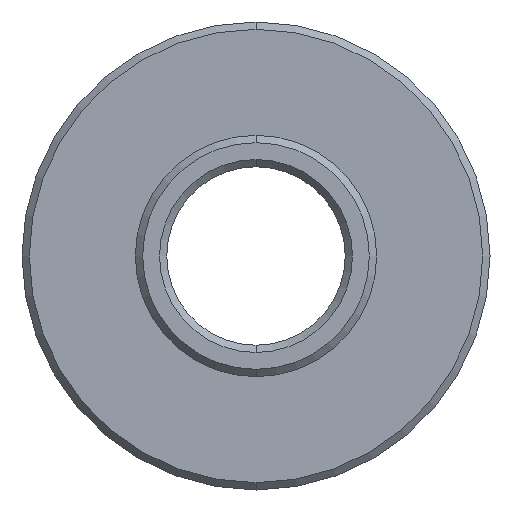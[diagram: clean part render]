
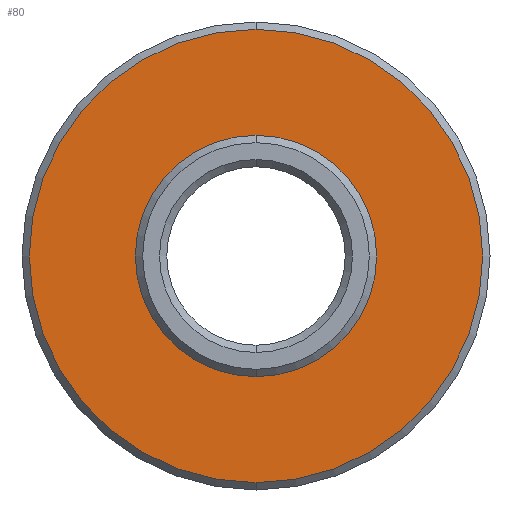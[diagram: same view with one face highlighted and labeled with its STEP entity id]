
A CAD part, front view. The second image highlights one B-rep face of the part: STEP entity #80.
In plain terms, the highlighted planar face has unit normal (0, -1, 0).
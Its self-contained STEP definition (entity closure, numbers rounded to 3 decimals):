
#21 = CARTESIAN_POINT ( 'NONE',  ( 0., -6., 15.5 ) ) ;
#22 = DIRECTION ( 'NONE',  ( 0., 0., 1. ) ) ;
#25 = VERTEX_POINT ( 'NONE', #455 ) ;
#27 = VERTEX_POINT ( 'NONE', #265 ) ;
#28 = CIRCLE ( 'NONE', #495, 15.5 ) ;
#29 = DIRECTION ( 'NONE',  ( 0., -1., 0. ) ) ;
#51 = DIRECTION ( 'NONE',  ( 0., -1., 0. ) ) ;
#62 = ORIENTED_EDGE ( 'NONE', *, *, #449, .T. ) ;
#63 = CIRCLE ( 'NONE', #513, 15.5 ) ;
#80 = ADVANCED_FACE ( 'NONE', ( #323, #401 ), #487, .T. ) ;
#95 = CARTESIAN_POINT ( 'NONE',  ( 0., -6., 0. ) ) ;
#108 = VERTEX_POINT ( 'NONE', #199 ) ;
#117 = DIRECTION ( 'NONE',  ( 0., 0., -1. ) ) ;
#126 = ORIENTED_EDGE ( 'NONE', *, *, #409, .T. ) ;
#136 = DIRECTION ( 'NONE',  ( 0., 0., -1. ) ) ;
#187 = DIRECTION ( 'NONE',  ( 0., 0., 1. ) ) ;
#191 = DIRECTION ( 'NONE',  ( 0., -1., 0. ) ) ;
#199 = CARTESIAN_POINT ( 'NONE',  ( 0., -6., -8.25 ) ) ;
#215 = AXIS2_PLACEMENT_3D ( 'NONE', #230, #515, #187 ) ;
#230 = CARTESIAN_POINT ( 'NONE',  ( 0., -6., 0. ) ) ;
#260 = CIRCLE ( 'NONE', #358, 8.25 ) ;
#265 = CARTESIAN_POINT ( 'NONE',  ( 0., -6., -15.5 ) ) ;
#310 = ORIENTED_EDGE ( 'NONE', *, *, #507, .T. ) ;
#323 = FACE_OUTER_BOUND ( 'NONE', #362, .T. ) ;
#345 = CARTESIAN_POINT ( 'NONE',  ( 0., -6., 0. ) ) ;
#358 = AXIS2_PLACEMENT_3D ( 'NONE', #471, #438, #22 ) ;
#362 = EDGE_LOOP ( 'NONE', ( #62, #126 ) ) ;
#396 = ORIENTED_EDGE ( 'NONE', *, *, #477, .T. ) ;
#397 = CARTESIAN_POINT ( 'NONE',  ( -16., -6., 0. ) ) ;
#401 = FACE_BOUND ( 'NONE', #542, .T. ) ;
#409 = EDGE_CURVE ( 'NONE', #27, #448, #63, .T. ) ;
#438 = DIRECTION ( 'NONE',  ( 0., 1., 0. ) ) ;
#448 = VERTEX_POINT ( 'NONE', #21 ) ;
#449 = EDGE_CURVE ( 'NONE', #448, #27, #28, .T. ) ;
#455 = CARTESIAN_POINT ( 'NONE',  ( 0., -6., 8.25 ) ) ;
#461 = AXIS2_PLACEMENT_3D ( 'NONE', #397, #29, #117 ) ;
#471 = CARTESIAN_POINT ( 'NONE',  ( 0., -6., 0. ) ) ;
#476 = CIRCLE ( 'NONE', #215, 8.25 ) ;
#477 = EDGE_CURVE ( 'NONE', #108, #25, #260, .T. ) ;
#487 = PLANE ( 'NONE',  #461 ) ;
#495 = AXIS2_PLACEMENT_3D ( 'NONE', #95, #191, #520 ) ;
#507 = EDGE_CURVE ( 'NONE', #25, #108, #476, .T. ) ;
#513 = AXIS2_PLACEMENT_3D ( 'NONE', #345, #51, #136 ) ;
#515 = DIRECTION ( 'NONE',  ( 0., 1., 0. ) ) ;
#520 = DIRECTION ( 'NONE',  ( 0., 0., -1. ) ) ;
#542 = EDGE_LOOP ( 'NONE', ( #310, #396 ) ) ;
